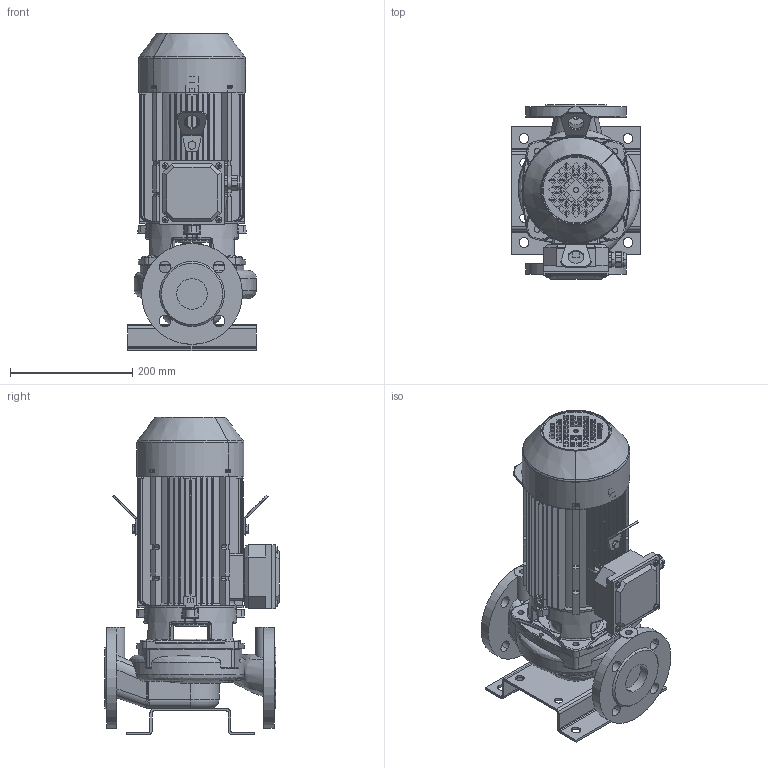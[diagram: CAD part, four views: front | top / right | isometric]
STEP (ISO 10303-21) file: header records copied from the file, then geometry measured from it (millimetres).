
FILE_DESCRIPTION(('STEP AP214'),'1');
FILE_NAME('export.stp','2018-05-29T06:11:28',(' '),(' '),'Spatial InterOp 3D',' ',' ');
FILE_SCHEMA(('AUTOMOTIVE_DESIGN { 1 0 10303 214 1 1 1 1 }'));
Length unit declared in the file: millimetre
Products named in the file (27): W_L50C2220_KP90F1; V_TLL50ABC; V_PPL50ABC; V_JALKA35973; M5x8_DIN; DIN_7985-M5X8; 160141; M5x12_DIN; DIN_7985-M5X12; 160137; 160138; 160139; 160140; Koura_Ale_M5; Plug_Blind_M20; Sealing_Plug_M20; V_MKP90-1-F16; 160033; 160008; 160048___; 160068___; 160135; 160134; DIN_EN_24017_-_M8_16-Stainless_S
Assembly tree (31 placements, depth 5):
  W_L50C2220_KP90F1
    V_TLL50ABC
    V_PPL50ABC
    V_JALKA35973
    V_MKP90-1-F16
      160141
        M5x8_DIN
          DIN_7985-M5X8
        M5x12_DIN
          DIN_7985-M5X12
        M5x12_DIN
          DIN_7985-M5X12
        M5x12_DIN
          DIN_7985-M5X12
        M5x12_DIN
          DIN_7985-M5X12
        160137
        160138
        160139
        160140
        Koura_Ale_M5
        Plug_Blind_M20
        Sealing_Plug_M20
      160033
        160008
      160048___
      160068___
      160135
      160134  x2
      DIN_EN_24017_-_M8_16-Stainless_S  x2
Bounding box: 210 x 285.5 x 519.45 mm (x, y, z)
Volume: 4527790 mm3; surface area: 1306768.7 mm2
Topology: 24 solids, 24 shells, 2605 faces, 6896 edges, 4356 vertices
Faces by surface type: plane 1071, cylinder 774, torus 302, bspline 271, cone 167, sphere 20
Entity records: 98518 total; most frequent: CARTESIAN_POINT 34574, ORIENTED_EDGE 13148, DIRECTION 12195, EDGE_CURVE 6574, AXIS2_PLACEMENT_3D 4648, VERTEX_POINT 4178, LINE 2899, VECTOR 2899
